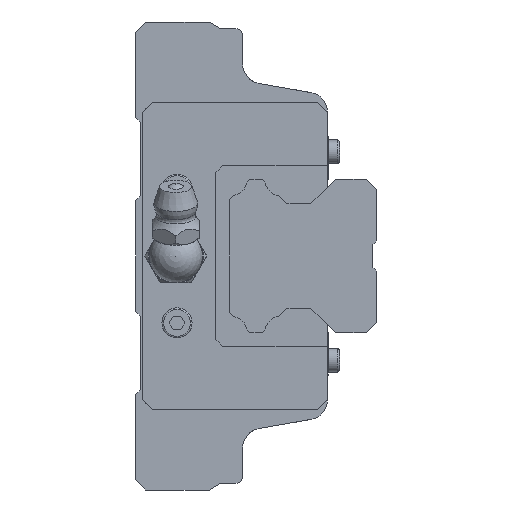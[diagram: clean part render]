
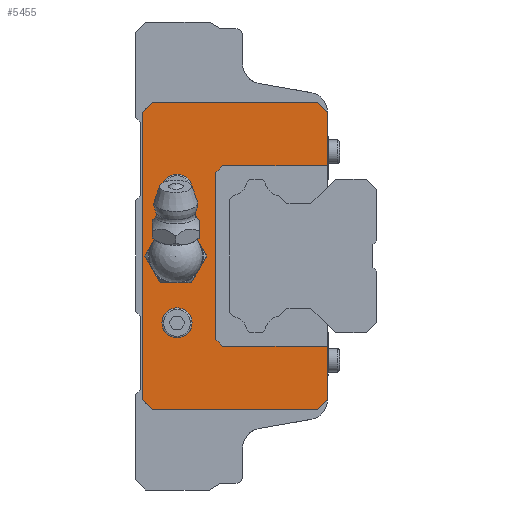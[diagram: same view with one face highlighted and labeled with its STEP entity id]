
A CAD part, left-side view. The second image highlights one B-rep face of the part: STEP entity #5455.
In plain terms, the highlighted planar face has unit normal (-1, 0, 0).
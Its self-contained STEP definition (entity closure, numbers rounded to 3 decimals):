
#249=CIRCLE('',#5919,3.);
#250=CIRCLE('',#5920,2.25);
#251=CIRCLE('',#5921,2.25);
#392=LINE('',#7929,#960);
#399=LINE('',#7943,#967);
#427=LINE('',#8001,#995);
#442=LINE('',#8032,#1010);
#470=LINE('',#8085,#1038);
#500=LINE('',#8149,#1068);
#510=LINE('',#8170,#1078);
#729=LINE('',#8831,#1297);
#730=LINE('',#8833,#1298);
#738=LINE('',#8861,#1306);
#739=LINE('',#8864,#1307);
#740=LINE('',#8865,#1308);
#741=LINE('',#8867,#1309);
#742=LINE('',#8869,#1310);
#960=VECTOR('',#6414,1000.);
#967=VECTOR('',#6425,1000.);
#995=VECTOR('',#6465,1000.);
#1010=VECTOR('',#6484,1000.);
#1038=VECTOR('',#6528,1000.);
#1068=VECTOR('',#6570,1000.);
#1078=VECTOR('',#6582,1000.);
#1297=VECTOR('',#7109,1000.);
#1298=VECTOR('',#7112,1000.);
#1306=VECTOR('',#7140,1000.);
#1307=VECTOR('',#7141,1000.);
#1308=VECTOR('',#7142,1000.);
#1309=VECTOR('',#7143,1000.);
#1310=VECTOR('',#7144,1000.);
#2468=ORIENTED_EDGE('',*,*,#3547,.T.);
#2469=ORIENTED_EDGE('',*,*,#3548,.F.);
#2470=ORIENTED_EDGE('',*,*,#3549,.F.);
#2471=ORIENTED_EDGE('',*,*,#3550,.T.);
#2472=ORIENTED_EDGE('',*,*,#3551,.T.);
#2473=ORIENTED_EDGE('',*,*,#3230,.F.);
#2474=ORIENTED_EDGE('',*,*,#3535,.T.);
#2475=ORIENTED_EDGE('',*,*,#3127,.F.);
#2476=ORIENTED_EDGE('',*,*,#3120,.F.);
#2477=ORIENTED_EDGE('',*,*,#3198,.F.);
#2478=ORIENTED_EDGE('',*,*,#3155,.F.);
#2479=ORIENTED_EDGE('',*,*,#3170,.F.);
#2480=ORIENTED_EDGE('',*,*,#3536,.T.);
#2481=ORIENTED_EDGE('',*,*,#3240,.F.);
#2482=ORIENTED_EDGE('',*,*,#3552,.T.);
#2483=ORIENTED_EDGE('',*,*,#3553,.T.);
#2484=ORIENTED_EDGE('',*,*,#3554,.T.);
#3120=EDGE_CURVE('',#3846,#3847,#392,.T.);
#3127=EDGE_CURVE('',#3847,#3852,#399,.T.);
#3155=EDGE_CURVE('',#3875,#3876,#427,.T.);
#3170=EDGE_CURVE('',#3889,#3875,#442,.T.);
#3198=EDGE_CURVE('',#3876,#3846,#470,.T.);
#3230=EDGE_CURVE('',#3934,#3935,#500,.T.);
#3240=EDGE_CURVE('',#3944,#3945,#510,.T.);
#3535=EDGE_CURVE('',#3934,#3852,#729,.T.);
#3536=EDGE_CURVE('',#3889,#3945,#730,.T.);
#3547=EDGE_CURVE('',#4156,#4156,#249,.T.);
#3548=EDGE_CURVE('',#4157,#4157,#250,.F.);
#3549=EDGE_CURVE('',#4158,#4158,#251,.F.);
#3550=EDGE_CURVE('',#4159,#4160,#738,.T.);
#3551=EDGE_CURVE('',#4160,#3935,#739,.T.);
#3552=EDGE_CURVE('',#3944,#4161,#740,.T.);
#3553=EDGE_CURVE('',#4161,#4162,#741,.T.);
#3554=EDGE_CURVE('',#4162,#4159,#742,.T.);
#3846=VERTEX_POINT('',#7928);
#3847=VERTEX_POINT('',#7930);
#3852=VERTEX_POINT('',#7944);
#3875=VERTEX_POINT('',#8000);
#3876=VERTEX_POINT('',#8002);
#3889=VERTEX_POINT('',#8031);
#3934=VERTEX_POINT('',#8148);
#3935=VERTEX_POINT('',#8150);
#3944=VERTEX_POINT('',#8169);
#3945=VERTEX_POINT('',#8171);
#4156=VERTEX_POINT('',#8856);
#4157=VERTEX_POINT('',#8858);
#4158=VERTEX_POINT('',#8860);
#4159=VERTEX_POINT('',#8862);
#4160=VERTEX_POINT('',#8863);
#4161=VERTEX_POINT('',#8866);
#4162=VERTEX_POINT('',#8868);
#4508=EDGE_LOOP('',(#2468));
#4509=EDGE_LOOP('',(#2469));
#4510=EDGE_LOOP('',(#2470));
#4511=EDGE_LOOP('',(#2471,#2472,#2473,#2474,#2475,#2476,#2477,#2478,#2479,
#2480,#2481,#2482,#2483,#2484));
#4887=FACE_BOUND('',#4508,.T.);
#4888=FACE_BOUND('',#4509,.T.);
#4889=FACE_BOUND('',#4510,.T.);
#4890=FACE_BOUND('',#4511,.T.);
#5193=PLANE('',#5918);
#5455=ADVANCED_FACE('',(#4887,#4888,#4889,#4890),#5193,.F.);
#5918=AXIS2_PLACEMENT_3D('',#8854,#7132,#7133);
#5919=AXIS2_PLACEMENT_3D('',#8855,#7134,#7135);
#5920=AXIS2_PLACEMENT_3D('',#8857,#7136,#7137);
#5921=AXIS2_PLACEMENT_3D('',#8859,#7138,#7139);
#6414=DIRECTION('',(0.,-0.707,0.707));
#6425=DIRECTION('',(0.,-1.,0.));
#6465=DIRECTION('',(0.,0.707,0.707));
#6484=DIRECTION('',(0.,1.,0.));
#6528=DIRECTION('',(0.,0.,1.));
#6570=DIRECTION('',(0.,0.,-1.));
#6582=DIRECTION('',(0.,0.,-1.));
#7109=DIRECTION('',(0.,0.707,0.707));
#7112=DIRECTION('',(0.,-0.707,0.707));
#7132=DIRECTION('',(1.,0.,0.));
#7133=DIRECTION('',(0.,0.,-1.));
#7134=DIRECTION('',(1.,0.,0.));
#7135=DIRECTION('',(0.,0.,-1.));
#7136=DIRECTION('',(1.,0.,0.));
#7137=DIRECTION('',(0.,0.,-1.));
#7138=DIRECTION('',(1.,0.,0.));
#7139=DIRECTION('',(0.,0.,-1.));
#7140=DIRECTION('',(0.,-0.707,0.707));
#7141=DIRECTION('',(0.,-1.,0.));
#7142=DIRECTION('',(0.,1.,0.));
#7143=DIRECTION('',(0.,0.707,0.707));
#7144=DIRECTION('',(0.,0.,1.));
#7928=CARTESIAN_POINT('',(-49.5,29.5,21.5));
#7929=CARTESIAN_POINT('',(-49.5,29.5,21.5));
#7930=CARTESIAN_POINT('',(-49.5,28.,23.));
#7943=CARTESIAN_POINT('',(-49.5,30.5,23.));
#7944=CARTESIAN_POINT('',(-49.5,3.317,23.));
#8000=CARTESIAN_POINT('',(-49.5,28.,-23.));
#8001=CARTESIAN_POINT('',(-49.5,28.,-23.));
#8002=CARTESIAN_POINT('',(-49.5,29.5,-21.5));
#8031=CARTESIAN_POINT('',(-49.5,3.317,-23.));
#8032=CARTESIAN_POINT('',(-49.5,0.,-23.));
#8085=CARTESIAN_POINT('',(-49.5,29.5,-21.5));
#8148=CARTESIAN_POINT('',(-49.5,1.817,21.5));
#8149=CARTESIAN_POINT('',(-49.5,1.817,-17.8));
#8150=CARTESIAN_POINT('',(-49.5,1.817,13.5));
#8169=CARTESIAN_POINT('',(-49.5,1.817,-13.5));
#8170=CARTESIAN_POINT('',(-49.5,1.817,-17.8));
#8171=CARTESIAN_POINT('',(-49.5,1.817,-21.5));
#8831=CARTESIAN_POINT('',(-49.5,3.317,23.));
#8833=CARTESIAN_POINT('',(-49.5,1.817,-21.5));
#8854=CARTESIAN_POINT('',(-49.5,0.,0.));
#8855=CARTESIAN_POINT('',(-49.5,24.5,0.));
#8856=CARTESIAN_POINT('',(-49.5,24.5,-3.));
#8857=CARTESIAN_POINT('',(-49.5,24.317,10.));
#8858=CARTESIAN_POINT('',(-49.5,24.317,7.75));
#8859=CARTESIAN_POINT('',(-49.5,24.317,-10.));
#8860=CARTESIAN_POINT('',(-49.5,24.317,-12.25));
#8861=CARTESIAN_POINT('',(-49.5,18.5,12.5));
#8862=CARTESIAN_POINT('',(-49.5,18.5,12.5));
#8863=CARTESIAN_POINT('',(-49.5,17.5,13.5));
#8864=CARTESIAN_POINT('',(-49.5,17.5,13.5));
#8865=CARTESIAN_POINT('',(-49.5,1.817,-13.5));
#8866=CARTESIAN_POINT('',(-49.5,17.5,-13.5));
#8867=CARTESIAN_POINT('',(-49.5,17.5,-13.5));
#8868=CARTESIAN_POINT('',(-49.5,18.5,-12.5));
#8869=CARTESIAN_POINT('',(-49.5,18.5,-12.5));
